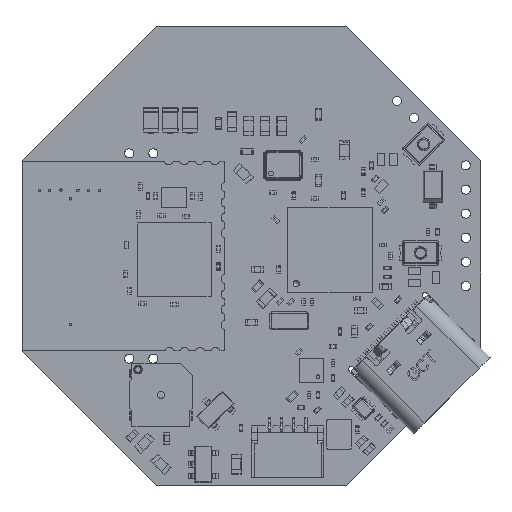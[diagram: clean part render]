
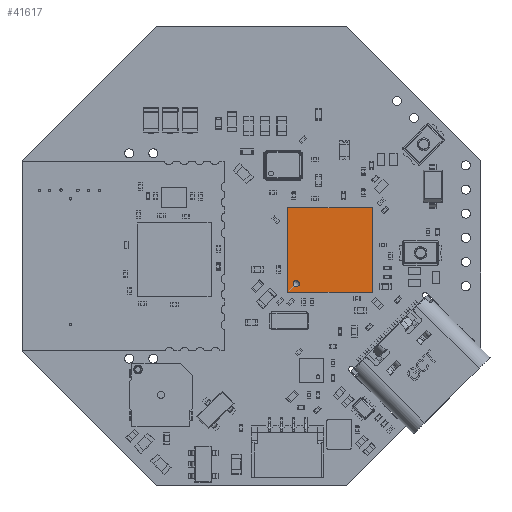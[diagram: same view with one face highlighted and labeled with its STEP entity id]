
A CAD part, top view. The second image highlights one B-rep face of the part: STEP entity #41617.
In plain terms, the highlighted planar face has unit normal (0, 0, 1).
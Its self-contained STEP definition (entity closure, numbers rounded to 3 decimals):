
#41526 = EDGE_CURVE('',#41527,#41527,#41529,.T.);
#41527 = VERTEX_POINT('',#41528);
#41528 = CARTESIAN_POINT('',(2.901,2.561,1.));
#41529 = B_SPLINE_CURVE_WITH_KNOTS('',3,(#41530,#41531,#41532,#41533,
    #41534,#41535,#41536,#41537,#41538,#41539,#41540,#41541,#41542,
    #41543,#41544,#41545,#41546,#41547,#41548,#41549,#41550,#41551,
    #41552,#41553,#41554,#41555,#41556,#41557,#41558,#41559,#41560,
    #41561,#41562,#41563,#41564,#41565,#41566,#41567,#41568,#41569,
    #41570,#41571,#41572,#41573,#41574,#41575,#41576,#41577,#41578,
    #41579,#41580,#41581,#41582,#41583,#41584,#41585,#41586,#41587,
    #41588,#41589,#41590,#41591,#41592,#41593,#41594,#41595,#41596,
    #41597,#41598,#41599,#41600,#41601,#41602,#41603,#41604,#41605,
    #41606,#41607),.UNSPECIFIED.,.T.,.F.,(1,3,2,2,2,2,2,2,2,2,2,2,2,2,2,
    2,2,2,2,2,2,2,2,2,2,2,2,2,2,2,2,2,2,2,2,2,2,2,2,3,1),(
    -0.027,0.,0.044,0.087,
    0.131,0.174,0.218,0.262,
    0.305,0.349,0.393,0.436,
    0.48,0.523,0.567,0.611,
    0.654,0.698,0.742,0.785,
    0.829,0.872,0.916,0.96,
    1.003,1.047,1.09,1.134,
    1.178,1.221,1.265,1.309,
    1.352,1.396,1.439,1.483,
    1.527,1.57,1.597,1.624,
    1.668),.UNSPECIFIED.);
#41530 = CARTESIAN_POINT('',(2.901,2.561,1.));
#41531 = CARTESIAN_POINT('',(2.914,2.566,1.));
#41532 = CARTESIAN_POINT('',(2.927,2.573,1.));
#41533 = CARTESIAN_POINT('',(2.952,2.589,1.));
#41534 = CARTESIAN_POINT('',(2.964,2.598,1.));
#41535 = CARTESIAN_POINT('',(2.985,2.617,1.));
#41536 = CARTESIAN_POINT('',(2.995,2.628,1.));
#41537 = CARTESIAN_POINT('',(3.013,2.651,1.));
#41538 = CARTESIAN_POINT('',(3.021,2.663,1.));
#41539 = CARTESIAN_POINT('',(3.035,2.689,1.));
#41540 = CARTESIAN_POINT('',(3.041,2.702,1.));
#41541 = CARTESIAN_POINT('',(3.051,2.73,1.));
#41542 = CARTESIAN_POINT('',(3.054,2.744,1.));
#41543 = CARTESIAN_POINT('',(3.059,2.773,1.));
#41544 = CARTESIAN_POINT('',(3.06,2.788,1.));
#41545 = CARTESIAN_POINT('',(3.06,2.817,1.));
#41546 = CARTESIAN_POINT('',(3.058,2.831,1.));
#41547 = CARTESIAN_POINT('',(3.053,2.86,1.));
#41548 = CARTESIAN_POINT('',(3.049,2.874,1.));
#41549 = CARTESIAN_POINT('',(3.039,2.902,1.));
#41550 = CARTESIAN_POINT('',(3.033,2.915,1.));
#41551 = CARTESIAN_POINT('',(3.019,2.941,1.));
#41552 = CARTESIAN_POINT('',(3.011,2.953,1.));
#41553 = CARTESIAN_POINT('',(2.992,2.975,1.));
#41554 = CARTESIAN_POINT('',(2.982,2.986,1.));
#41555 = CARTESIAN_POINT('',(2.96,3.005,1.));
#41556 = CARTESIAN_POINT('',(2.948,3.014,1.));
#41557 = CARTESIAN_POINT('',(2.923,3.029,1.));
#41558 = CARTESIAN_POINT('',(2.91,3.036,1.));
#41559 = CARTESIAN_POINT('',(2.883,3.047,1.));
#41560 = CARTESIAN_POINT('',(2.869,3.051,1.));
#41561 = CARTESIAN_POINT('',(2.841,3.057,1.));
#41562 = CARTESIAN_POINT('',(2.826,3.059,1.));
#41563 = CARTESIAN_POINT('',(2.797,3.06,1.));
#41564 = CARTESIAN_POINT('',(2.782,3.06,1.));
#41565 = CARTESIAN_POINT('',(2.753,3.056,1.));
#41566 = CARTESIAN_POINT('',(2.739,3.053,1.));
#41567 = CARTESIAN_POINT('',(2.711,3.044,1.));
#41568 = CARTESIAN_POINT('',(2.697,3.039,1.));
#41569 = CARTESIAN_POINT('',(2.671,3.026,1.));
#41570 = CARTESIAN_POINT('',(2.659,3.018,1.));
#41571 = CARTESIAN_POINT('',(2.635,3.001,1.));
#41572 = CARTESIAN_POINT('',(2.624,2.992,1.));
#41573 = CARTESIAN_POINT('',(2.604,2.971,1.));
#41574 = CARTESIAN_POINT('',(2.594,2.959,1.));
#41575 = CARTESIAN_POINT('',(2.578,2.935,1.));
#41576 = CARTESIAN_POINT('',(2.57,2.922,1.));
#41577 = CARTESIAN_POINT('',(2.558,2.896,1.));
#41578 = CARTESIAN_POINT('',(2.553,2.882,1.));
#41579 = CARTESIAN_POINT('',(2.545,2.854,1.));
#41580 = CARTESIAN_POINT('',(2.543,2.839,1.));
#41581 = CARTESIAN_POINT('',(2.54,2.811,1.));
#41582 = CARTESIAN_POINT('',(2.54,2.796,1.));
#41583 = CARTESIAN_POINT('',(2.542,2.767,1.));
#41584 = CARTESIAN_POINT('',(2.544,2.752,1.));
#41585 = CARTESIAN_POINT('',(2.551,2.724,1.));
#41586 = CARTESIAN_POINT('',(2.556,2.71,1.));
#41587 = CARTESIAN_POINT('',(2.568,2.683,1.));
#41588 = CARTESIAN_POINT('',(2.574,2.67,1.));
#41589 = CARTESIAN_POINT('',(2.59,2.646,1.));
#41590 = CARTESIAN_POINT('',(2.599,2.634,1.));
#41591 = CARTESIAN_POINT('',(2.619,2.613,1.));
#41592 = CARTESIAN_POINT('',(2.63,2.603,1.));
#41593 = CARTESIAN_POINT('',(2.653,2.585,1.));
#41594 = CARTESIAN_POINT('',(2.666,2.577,1.));
#41595 = CARTESIAN_POINT('',(2.692,2.563,1.));
#41596 = CARTESIAN_POINT('',(2.705,2.558,1.));
#41597 = CARTESIAN_POINT('',(2.733,2.549,1.));
#41598 = CARTESIAN_POINT('',(2.747,2.545,1.));
#41599 = CARTESIAN_POINT('',(2.776,2.541,1.));
#41600 = CARTESIAN_POINT('',(2.791,2.54,1.));
#41601 = CARTESIAN_POINT('',(2.82,2.541,1.));
#41602 = CARTESIAN_POINT('',(2.834,2.542,1.));
#41603 = CARTESIAN_POINT('',(2.858,2.546,1.));
#41604 = CARTESIAN_POINT('',(2.866,2.549,1.));
#41605 = CARTESIAN_POINT('',(2.884,2.554,1.));
#41606 = CARTESIAN_POINT('',(2.892,2.557,1.));
#41607 = CARTESIAN_POINT('',(2.901,2.561,1.));
#41617 = ADVANCED_FACE('',(#41618,#41621),#41655,.F.);
#41618 = FACE_BOUND('',#41619,.T.);
#41619 = EDGE_LOOP('',(#41620));
#41620 = ORIENTED_EDGE('',*,*,#41526,.F.);
#41621 = FACE_BOUND('',#41622,.T.);
#41622 = EDGE_LOOP('',(#41623,#41633,#41641,#41649));
#41623 = ORIENTED_EDGE('',*,*,#41624,.T.);
#41624 = EDGE_CURVE('',#41625,#41627,#41629,.T.);
#41625 = VERTEX_POINT('',#41626);
#41626 = CARTESIAN_POINT('',(3.5,3.5,1.));
#41627 = VERTEX_POINT('',#41628);
#41628 = CARTESIAN_POINT('',(-3.5,3.5,1.));
#41629 = LINE('',#41630,#41631);
#41630 = CARTESIAN_POINT('',(3.5,3.5,1.));
#41631 = VECTOR('',#41632,1.);
#41632 = DIRECTION('',(-1.,0.,-0.));
#41633 = ORIENTED_EDGE('',*,*,#41634,.T.);
#41634 = EDGE_CURVE('',#41627,#41635,#41637,.T.);
#41635 = VERTEX_POINT('',#41636);
#41636 = CARTESIAN_POINT('',(-3.5,-3.5,1.));
#41637 = LINE('',#41638,#41639);
#41638 = CARTESIAN_POINT('',(-3.5,3.5,1.));
#41639 = VECTOR('',#41640,1.);
#41640 = DIRECTION('',(0.,-1.,-0.));
#41641 = ORIENTED_EDGE('',*,*,#41642,.T.);
#41642 = EDGE_CURVE('',#41635,#41643,#41645,.T.);
#41643 = VERTEX_POINT('',#41644);
#41644 = CARTESIAN_POINT('',(3.5,-3.5,1.));
#41645 = LINE('',#41646,#41647);
#41646 = CARTESIAN_POINT('',(-3.5,-3.5,1.));
#41647 = VECTOR('',#41648,1.);
#41648 = DIRECTION('',(1.,0.,-0.));
#41649 = ORIENTED_EDGE('',*,*,#41650,.T.);
#41650 = EDGE_CURVE('',#41643,#41625,#41651,.T.);
#41651 = LINE('',#41652,#41653);
#41652 = CARTESIAN_POINT('',(3.5,-3.5,1.));
#41653 = VECTOR('',#41654,1.);
#41654 = DIRECTION('',(0.,1.,-0.));
#41655 = PLANE('',#41656);
#41656 = AXIS2_PLACEMENT_3D('',#41657,#41658,#41659);
#41657 = CARTESIAN_POINT('',(-3.5,-3.5,1.));
#41658 = DIRECTION('',(-0.,0.,-1.));
#41659 = DIRECTION('',(-1.,0.,0.));
